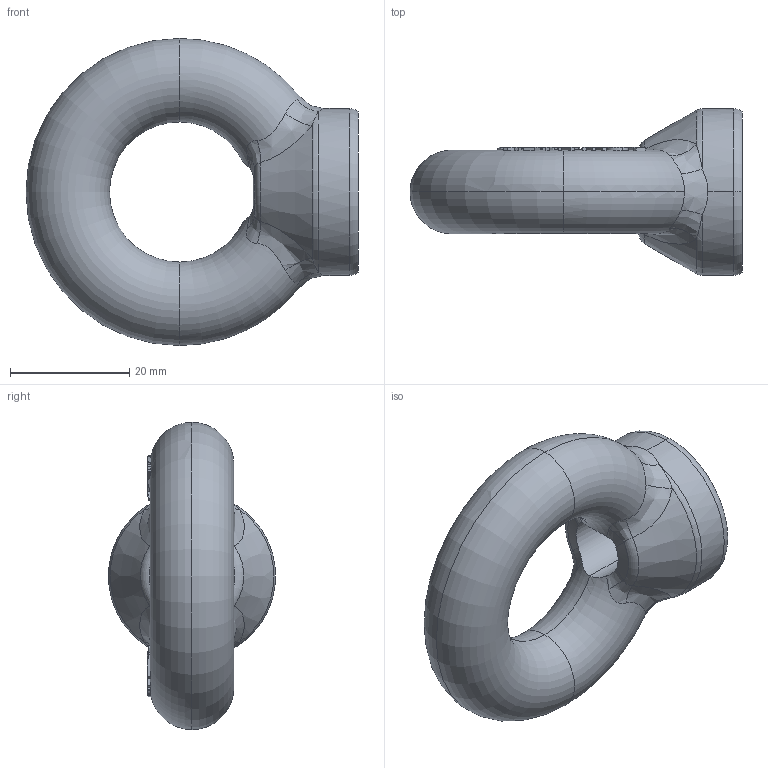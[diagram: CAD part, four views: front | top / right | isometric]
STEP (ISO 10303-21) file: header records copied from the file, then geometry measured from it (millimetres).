
FILE_DESCRIPTION (( 'STEP AP203' ), '1' );
FILE_NAME ('ENMC12.STEP', '2010-02-12T01:58:49', ( ' ' ), ( ' ' ), 'SwSTEP 2.0', 'SolidWorks 2003240', '' );
FILE_SCHEMA (( 'CONFIG_CONTROL_DESIGN' ));
Length unit declared in the file: millimetre
Products named in the file (1): ENMC12
Bounding box: 55.66 x 28 x 51.5 mm (x, y, z)
Volume: 22246.2 mm3; surface area: 6760.9 mm2
Topology: 1 solids, 1 shells, 221 faces, 580 edges, 378 vertices
Faces by surface type: plane 129, bspline 49, torus 33, cone 6, cylinder 4
Entity records: 15898 total; most frequent: CARTESIAN_POINT 11203, ORIENTED_EDGE 1160, DIRECTION 605, EDGE_CURVE 580, VERTEX_POINT 378, B_SPLINE_CURVE_WITH_KNOTS 368, EDGE_LOOP 242, ADVANCED_FACE 221
